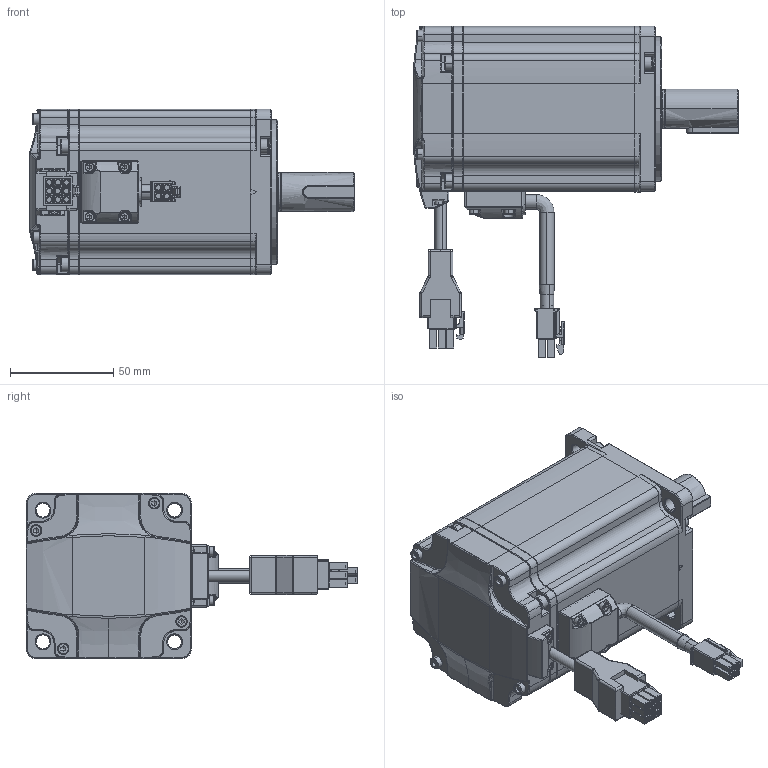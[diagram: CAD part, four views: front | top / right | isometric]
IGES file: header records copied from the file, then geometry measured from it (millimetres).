
Start section: SolidWorks IGES file using analytic representation for surfaces
Global section: file name: D:\¹¤×÷\2023.11\2023.11.10\1\EM3J-10ALA221.IGS; native system: SolidWorks 2018; preprocessor: SolidWorks 2018; author: wangyitong; date: 231116.100912; units: millimetre
Bounding box: 157 x 160.49 x 80 mm (x, y, z)
Surface area: 112546.8 mm2 (no closed solid volume)
Topology: 0 solids, 0 shells, 2348 faces, 23074 edges, 22979 vertices
Faces by surface type: bspline 1335, revolution 1013
